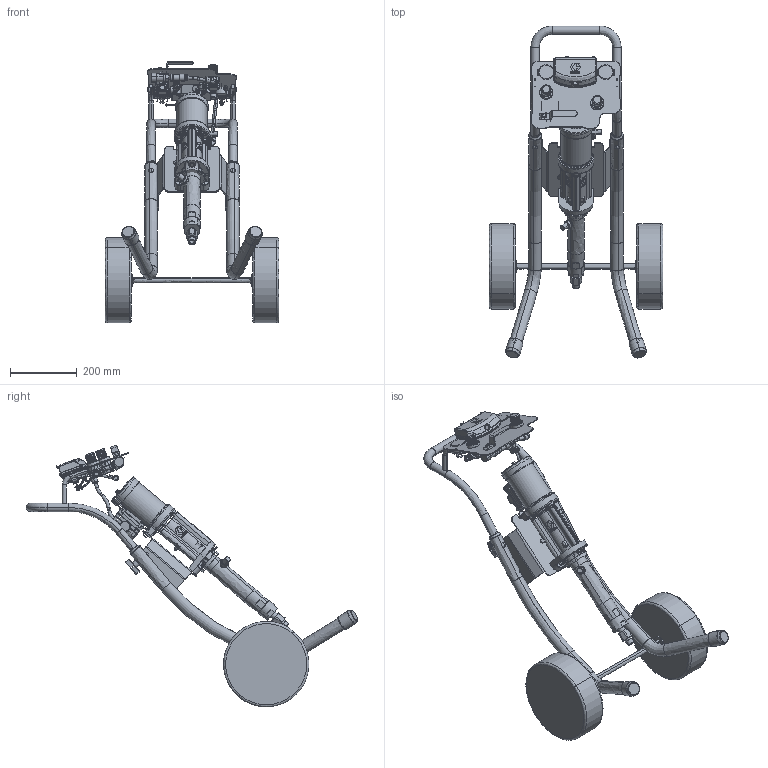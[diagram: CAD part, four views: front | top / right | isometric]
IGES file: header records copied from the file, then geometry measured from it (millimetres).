
Start section:  PTC IGES file: g15c01-en-r.igs
Global section: file name: g15c01-en-r.igs; native system: Creo Parametric by PTC Inc.; preprocessor: 2021072; author: qtmwp1; organization: Unknown; date: 20220214.144536; units: inch
Bounding box: 519.43 x 991.61 x 782.32 mm (x, y, z)
Surface area: 1443019.6 mm2 (no closed solid volume)
Topology: 0 solids, 0 shells, 1908 faces, 10491 edges, 10470 vertices
Faces by surface type: revolution 1148, bspline 745, extrusion 15
